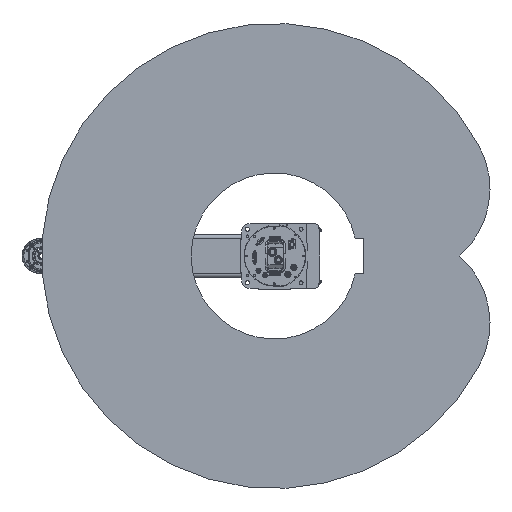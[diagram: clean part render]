
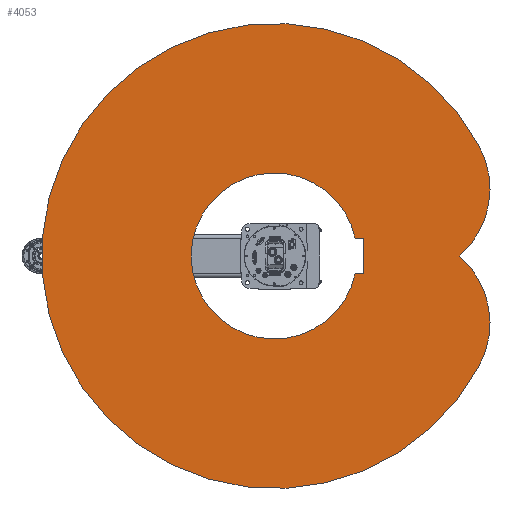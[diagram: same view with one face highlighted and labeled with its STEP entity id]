
A CAD part, front view. The second image highlights one B-rep face of the part: STEP entity #4053.
In plain terms, the highlighted planar face has unit normal (0, -1, 0).
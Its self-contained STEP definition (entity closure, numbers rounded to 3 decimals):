
#4053 = ADVANCED_FACE( '', ( #10422, #10423 ), #10424, .F. );
#10422 = FACE_OUTER_BOUND( '', #20216, .T. );
#10423 = FACE_BOUND( '', #20217, .T. );
#10424 = PLANE( '', #20218 );
#20216 = EDGE_LOOP( '', ( #32746, #32747, #32748 ) );
#20217 = EDGE_LOOP( '', ( #32749, #32750, #32751, #32752 ) );
#20218 = AXIS2_PLACEMENT_3D( '', #32753, #32754, #32755 );
#32746 = ORIENTED_EDGE( '', *, *, #54247, .F. );
#32747 = ORIENTED_EDGE( '', *, *, #54248, .F. );
#32748 = ORIENTED_EDGE( '', *, *, #54249, .F. );
#32749 = ORIENTED_EDGE( '', *, *, #54250, .T. );
#32750 = ORIENTED_EDGE( '', *, *, #54251, .T. );
#32751 = ORIENTED_EDGE( '', *, *, #54252, .T. );
#32752 = ORIENTED_EDGE( '', *, *, #52086, .T. );
#32753 = CARTESIAN_POINT( '', ( 93.894, 0., 176.59 ) );
#32754 = DIRECTION( '', ( 0., 1., 0. ) );
#32755 = DIRECTION( '', ( 0., 0., 1. ) );
#52086 = EDGE_CURVE( '', #61234, #61232, #61235, .T. );
#54247 = EDGE_CURVE( '', #64936, #64937, #64938, .T. );
#54248 = EDGE_CURVE( '', #64939, #64936, #64940, .T. );
#54249 = EDGE_CURVE( '', #64937, #64939, #64941, .T. );
#54250 = EDGE_CURVE( '', #61232, #64942, #64943, .T. );
#54251 = EDGE_CURVE( '', #64942, #64944, #64945, .T. );
#54252 = EDGE_CURVE( '', #64944, #61234, #64946, .T. );
#61232 = VERTEX_POINT( '', #74786 );
#61234 = VERTEX_POINT( '', #74789 );
#61235 = CIRCLE( '', #74790, 232. );
#64936 = VERTEX_POINT( '', #81359 );
#64937 = VERTEX_POINT( '', #81360 );
#64938 = CIRCLE( '', #81361, 250. );
#64939 = VERTEX_POINT( '', #81362 );
#64940 = CIRCLE( '', #81363, 250. );
#64941 = CIRCLE( '', #81364, 650. );
#64942 = VERTEX_POINT( '', #81365 );
#64943 = LINE( '', #81366, #81367 );
#64944 = VERTEX_POINT( '', #81368 );
#64945 = LINE( '', #81369, #81370 );
#64946 = LINE( '', #81371, #81372 );
#74786 = CARTESIAN_POINT( '', ( -50., 0., 226.548 ) );
#74789 = CARTESIAN_POINT( '', ( 50., 0., 226.548 ) );
#74790 = AXIS2_PLACEMENT_3D( '', #96976, #96977, #96978 );
#81359 = CARTESIAN_POINT( '', ( 0., 0., 518.211 ) );
#81360 = CARTESIAN_POINT( '', ( 305.157, 0., 573.916 ) );
#81361 = AXIS2_PLACEMENT_3D( '', #99610, #99611, #99612 );
#81362 = CARTESIAN_POINT( '', ( -305.157, 0., 573.916 ) );
#81363 = AXIS2_PLACEMENT_3D( '', #99613, #99614, #99615 );
#81364 = AXIS2_PLACEMENT_3D( '', #99616, #99617, #99618 );
#81365 = CARTESIAN_POINT( '', ( -50., 0., 250. ) );
#81366 = CARTESIAN_POINT( '', ( -50., 0., 0. ) );
#81367 = VECTOR( '', #99619, 1000. );
#81368 = CARTESIAN_POINT( '', ( 50., 0., 250. ) );
#81369 = CARTESIAN_POINT( '', ( -50., 0., 250. ) );
#81370 = VECTOR( '', #99620, 1000. );
#81371 = CARTESIAN_POINT( '', ( 50., 0., 250. ) );
#81372 = VECTOR( '', #99621, 1000. );
#96976 = CARTESIAN_POINT( '', ( 0., 0., 0. ) );
#96977 = DIRECTION( '', ( 0., 1., 0. ) );
#96978 = DIRECTION( '', ( 1., 0., 0. ) );
#99610 = CARTESIAN_POINT( '', ( 187.789, 0., 353.179 ) );
#99611 = DIRECTION( '', ( 0., 1., 0. ) );
#99612 = DIRECTION( '', ( 1., 0., 0. ) );
#99613 = CARTESIAN_POINT( '', ( -187.789, 0., 353.179 ) );
#99614 = DIRECTION( '', ( 0., 1., 0. ) );
#99615 = DIRECTION( '', ( 1., 0., 0. ) );
#99616 = CARTESIAN_POINT( '', ( 0., 0., 0. ) );
#99617 = DIRECTION( '', ( 0., 1., 0. ) );
#99618 = DIRECTION( '', ( 1., 0., 0. ) );
#99619 = DIRECTION( '', ( 0., 0., 1. ) );
#99620 = DIRECTION( '', ( 1., 0., 0. ) );
#99621 = DIRECTION( '', ( 0., 0., -1. ) );
